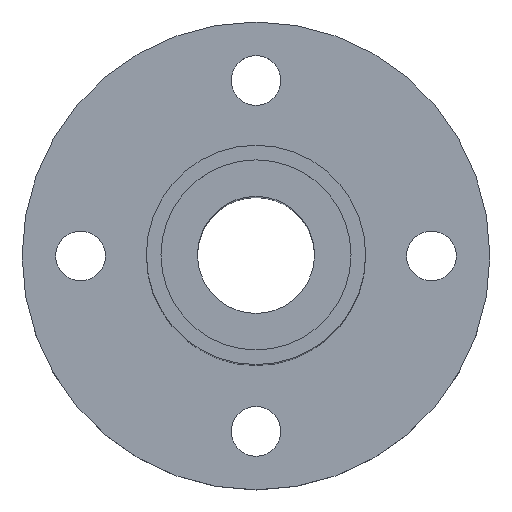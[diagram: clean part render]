
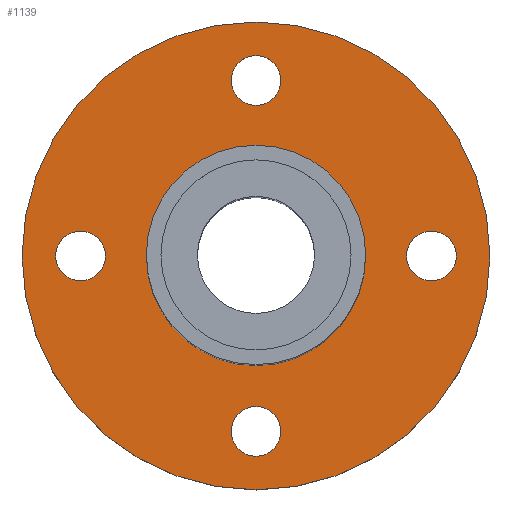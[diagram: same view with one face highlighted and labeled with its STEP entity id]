
A CAD part, top view. The second image highlights one B-rep face of the part: STEP entity #1139.
In plain terms, the highlighted planar face has unit normal (0, 0, 1).
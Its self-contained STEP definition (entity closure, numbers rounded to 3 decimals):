
#51=CARTESIAN_POINT('',(-16.,-0.1,5.0));
#52=VERTEX_POINT('',#51);
#68=CARTESIAN_POINT('',(16.,-0.1,5.0));
#69=VERTEX_POINT('',#68);
#76=CARTESIAN_POINT('',(0.0,-0.1,5.0));
#77=DIRECTION('',(0.0,0.0,-1.0));
#78=DIRECTION('',(-1.0,0.0,0.0));
#79=AXIS2_PLACEMENT_3D('',#76,#77,#78);
#80=CIRCLE('',#79,16.);
#81=EDGE_CURVE('',#69,#52,#80,.T.);
#133=CARTESIAN_POINT('',(-7.5,-0.1,5.0));
#134=VERTEX_POINT('',#133);
#143=CARTESIAN_POINT('',(7.5,-0.1,5.0));
#144=VERTEX_POINT('',#143);
#145=CARTESIAN_POINT('',(0.0,-0.1,5.0));
#146=DIRECTION('',(0.0,0.0,-1.0));
#147=DIRECTION('',(-1.0,0.0,0.0));
#148=AXIS2_PLACEMENT_3D('',#145,#146,#147);
#149=CIRCLE('',#148,7.5);
#150=EDGE_CURVE('',#144,#134,#149,.T.);
#345=CARTESIAN_POINT('',(0.0,10.2,5.0));
#346=VERTEX_POINT('',#345);
#362=CARTESIAN_POINT('',(0.,13.6,5.));
#363=VERTEX_POINT('',#362);
#370=CARTESIAN_POINT('',(0.0,11.9,5.));
#371=DIRECTION('',(0.0,0.0,-1.0));
#372=DIRECTION('',(0.0,-1.0,0.0));
#373=AXIS2_PLACEMENT_3D('',#370,#371,#372);
#374=CIRCLE('',#373,1.7);
#375=EDGE_CURVE('',#346,#363,#374,.T.);
#429=CARTESIAN_POINT('',(-10.3,-0.1,5.0));
#430=VERTEX_POINT('',#429);
#446=CARTESIAN_POINT('',(-13.7,-0.1,5.));
#447=VERTEX_POINT('',#446);
#454=CARTESIAN_POINT('',(-12.,-0.1,5.));
#455=DIRECTION('',(0.0,0.0,-1.0));
#456=DIRECTION('',(1.0,0.0,0.0));
#457=AXIS2_PLACEMENT_3D('',#454,#455,#456);
#458=CIRCLE('',#457,1.7);
#459=EDGE_CURVE('',#430,#447,#458,.T.);
#513=CARTESIAN_POINT('',(0.,-10.4,5.0));
#514=VERTEX_POINT('',#513);
#530=CARTESIAN_POINT('',(0.,-13.8,5.));
#531=VERTEX_POINT('',#530);
#538=CARTESIAN_POINT('',(0.,-12.1,5.));
#539=DIRECTION('',(0.0,0.0,-1.0));
#540=DIRECTION('',(0.0,1.0,0.0));
#541=AXIS2_PLACEMENT_3D('',#538,#539,#540);
#542=CIRCLE('',#541,1.7);
#543=EDGE_CURVE('',#514,#531,#542,.T.);
#597=CARTESIAN_POINT('',(10.3,-0.1,5.0));
#598=VERTEX_POINT('',#597);
#614=CARTESIAN_POINT('',(13.7,-0.1,5.));
#615=VERTEX_POINT('',#614);
#622=CARTESIAN_POINT('',(12.,-0.1,5.));
#623=DIRECTION('',(0.0,0.0,-1.0));
#624=DIRECTION('',(-1.0,0.0,0.0));
#625=AXIS2_PLACEMENT_3D('',#622,#623,#624);
#626=CIRCLE('',#625,1.7);
#627=EDGE_CURVE('',#598,#615,#626,.T.);
#638=CARTESIAN_POINT('',(12.,-0.1,5.));
#639=DIRECTION('',(0.0,0.0,-1.0));
#640=DIRECTION('',(-1.0,0.0,0.0));
#641=AXIS2_PLACEMENT_3D('',#638,#639,#640);
#642=CIRCLE('',#641,1.7);
#643=EDGE_CURVE('',#615,#598,#642,.T.);
#700=CARTESIAN_POINT('',(0.,-12.1,5.));
#701=DIRECTION('',(0.0,0.0,-1.0));
#702=DIRECTION('',(0.0,1.0,0.0));
#703=AXIS2_PLACEMENT_3D('',#700,#701,#702);
#704=CIRCLE('',#703,1.7);
#705=EDGE_CURVE('',#531,#514,#704,.T.);
#762=CARTESIAN_POINT('',(-12.,-0.1,5.));
#763=DIRECTION('',(0.0,0.0,-1.0));
#764=DIRECTION('',(1.0,0.0,0.0));
#765=AXIS2_PLACEMENT_3D('',#762,#763,#764);
#766=CIRCLE('',#765,1.7);
#767=EDGE_CURVE('',#447,#430,#766,.T.);
#824=CARTESIAN_POINT('',(0.0,11.9,5.));
#825=DIRECTION('',(0.0,0.0,-1.0));
#826=DIRECTION('',(0.0,-1.0,0.0));
#827=AXIS2_PLACEMENT_3D('',#824,#825,#826);
#828=CIRCLE('',#827,1.7);
#829=EDGE_CURVE('',#363,#346,#828,.T.);
#1056=CARTESIAN_POINT('',(0.0,-0.1,5.0));
#1057=DIRECTION('',(0.0,0.0,-1.0));
#1058=DIRECTION('',(-1.0,0.0,0.0));
#1059=AXIS2_PLACEMENT_3D('',#1056,#1057,#1058);
#1060=CIRCLE('',#1059,7.5);
#1061=EDGE_CURVE('',#134,#144,#1060,.T.);
#1098=CARTESIAN_POINT('',(0.0,-0.1,5.0));
#1099=DIRECTION('',(0.0,0.0,-1.0));
#1100=DIRECTION('',(-1.0,0.0,0.0));
#1101=AXIS2_PLACEMENT_3D('',#1098,#1099,#1100);
#1102=CIRCLE('',#1101,16.);
#1103=EDGE_CURVE('',#52,#69,#1102,.T.);
#1110=CARTESIAN_POINT('',(0.0,-0.1,5.0));
#1111=DIRECTION('',(0.0,0.0,-1.0));
#1112=DIRECTION('',(-1.0,0.0,0.0));
#1113=AXIS2_PLACEMENT_3D('',#1110,#1111,#1112);
#1114=PLANE('',#1113);
#1115=ORIENTED_EDGE('',*,*,#81,.F.);
#1116=ORIENTED_EDGE('',*,*,#1103,.F.);
#1117=EDGE_LOOP('',(#1115,#1116));
#1118=FACE_OUTER_BOUND('',#1117,.T.);
#1119=ORIENTED_EDGE('',*,*,#627,.T.);
#1120=ORIENTED_EDGE('',*,*,#643,.T.);
#1121=EDGE_LOOP('',(#1119,#1120));
#1122=FACE_BOUND('',#1121,.T.);
#1123=ORIENTED_EDGE('',*,*,#543,.T.);
#1124=ORIENTED_EDGE('',*,*,#705,.T.);
#1125=EDGE_LOOP('',(#1123,#1124));
#1126=FACE_BOUND('',#1125,.T.);
#1127=ORIENTED_EDGE('',*,*,#459,.T.);
#1128=ORIENTED_EDGE('',*,*,#767,.T.);
#1129=EDGE_LOOP('',(#1127,#1128));
#1130=FACE_BOUND('',#1129,.T.);
#1131=ORIENTED_EDGE('',*,*,#375,.T.);
#1132=ORIENTED_EDGE('',*,*,#829,.T.);
#1133=EDGE_LOOP('',(#1131,#1132));
#1134=FACE_BOUND('',#1133,.T.);
#1135=ORIENTED_EDGE('',*,*,#150,.T.);
#1136=ORIENTED_EDGE('',*,*,#1061,.T.);
#1137=EDGE_LOOP('',(#1135,#1136));
#1138=FACE_BOUND('',#1137,.T.);
#1139=ADVANCED_FACE('',(#1118,#1122,#1126,#1130,#1134,#1138),#1114,.F.);
